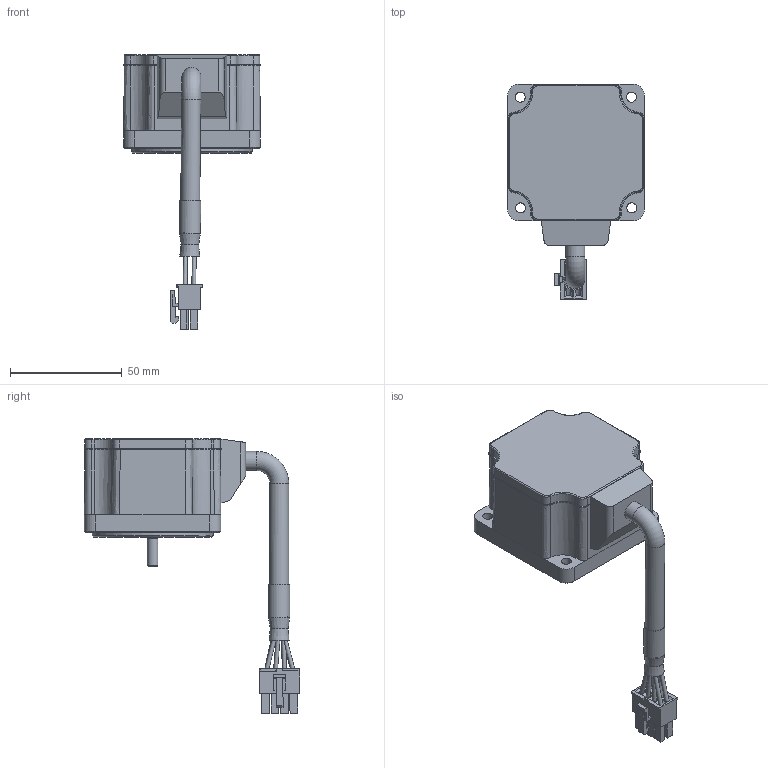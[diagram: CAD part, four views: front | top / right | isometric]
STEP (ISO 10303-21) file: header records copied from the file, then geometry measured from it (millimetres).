
FILE_DESCRIPTION((''),'2;1');
FILE_NAME('C:\Users\AHN\Desktop\BLDC 홈페이지용\K6XH30N2.stp','2020-08-20T17:34:53',('AHN'),(''),'Autodesk Inventor 2009','Autodesk Inventor 2009','');
FILE_SCHEMA(('AUTOMOTIVE_DESIGN { 1 0 10303 214 1 1 1 1 }'));
Length unit declared in the file: inch
Products named in the file (7): K6LH30N2; Solid1_4; Solid11_4; x타입 케이블; 부품35_1; 부품35_2; 하우징
Assembly tree (6 placements, depth 3):
  K6LH30N2
    Solid1_4
    Solid11_4
    x타입 케이블
      부품35_1
      부품35_2
      하우징
Bounding box: 61.1 x 96.26 x 122.79 mm (x, y, z)
Volume: 156384.1 mm3; surface area: 33266.9 mm2
Topology: 4 solids, 13 shells, 483 faces, 1257 edges, 811 vertices
Faces by surface type: plane 364, cylinder 77, cone 15, torus 14, bspline 13
Full cylindrical faces by diameter (mm): 1.75 x10, 2.8 x8, 4.5 x4, 4.7 x1, 7.5 x1, 8.5 x2, 9 x1, 9.4 x1, 54 x1
Entity records: 15061 total; most frequent: CARTESIAN_POINT 3173, ORIENTED_EDGE 2402, DIRECTION 2344, EDGE_CURVE 1201, VECTOR 964, LINE 964, VERTEX_POINT 800, AXIS2_PLACEMENT_3D 690
